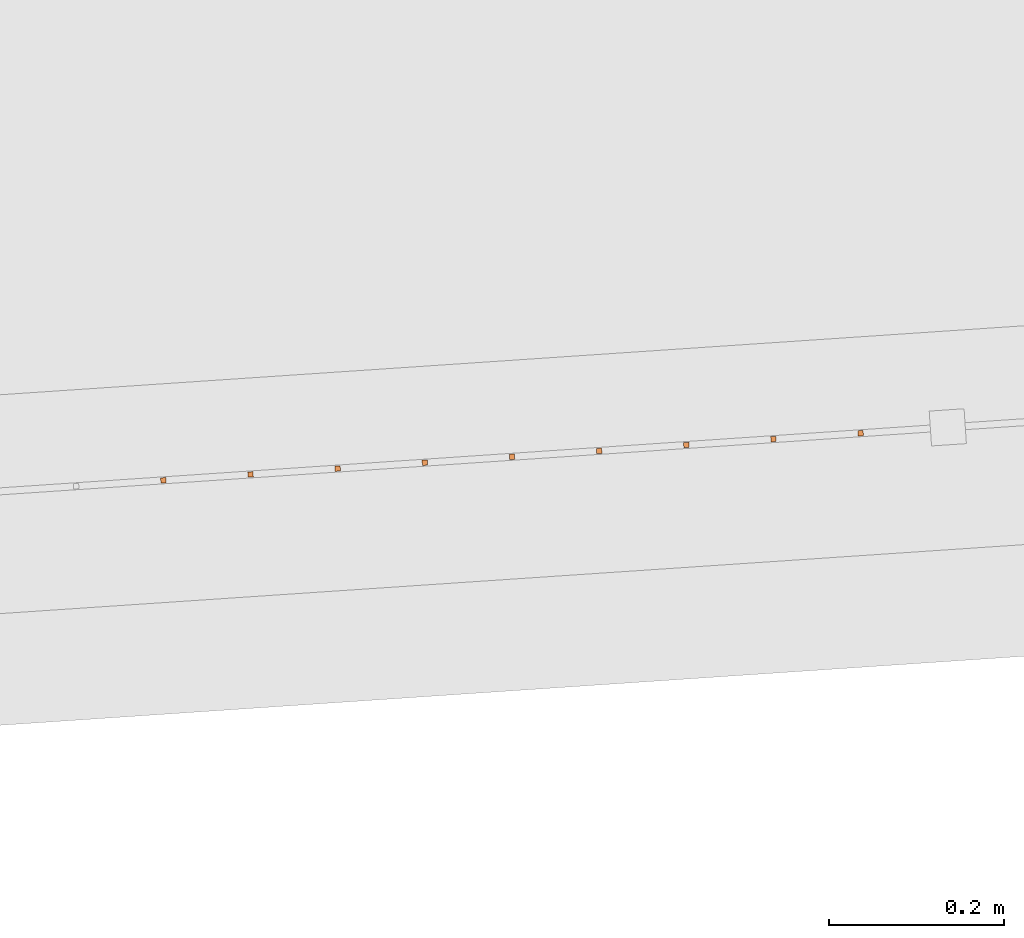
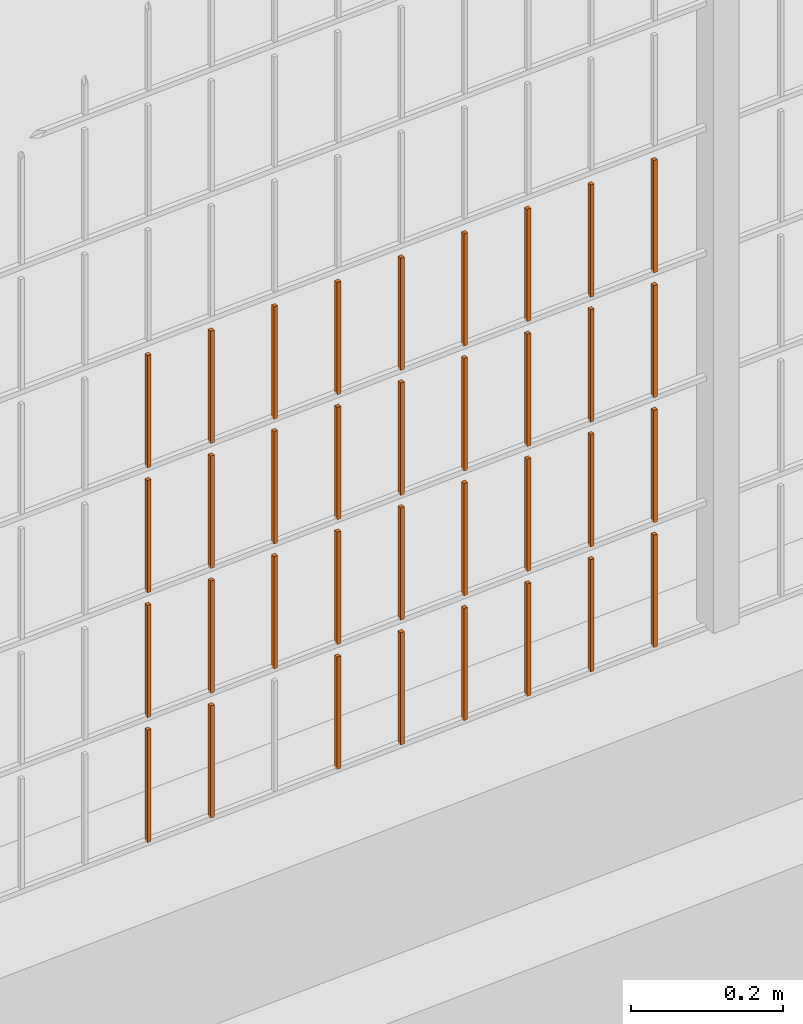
# One storey, part 207 of 1809: 35 proxies, 1 element without a shape of its own.
"""IFC2X3 building model written with IfcOpenShell, lengths in millimetres."""

from ifc_helpers import new_model, entity, si_unit, converted_unit, derived_unit, money_unit, direction, frame, origin_with_axes, place, context, subcontext, project, spatial, faceted_brep, source, transform, mapped, material, type_object, element, aggregate, save


model = new_model("IFC2X3")

# Units and contexts
model_context = context("Model", 3, precision=0.01, world=origin_with_axes(), true_north=direction((0.0, 1.0)))
body_context = subcontext(model_context, "Body", "Model", "MODEL_VIEW")
ifc_project = project(units=[si_unit("LENGTHUNIT", "METRE", prefix="MILLI"), si_unit("AREAUNIT", "SQUARE_METRE"), si_unit("VOLUMEUNIT", "CUBIC_METRE"), converted_unit("PLANEANGLEUNIT", "DEGREE", entity("IfcPlaneAngleMeasure", 0.0174532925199), si_unit("PLANEANGLEUNIT", "RADIAN"), dimensions=[0, 0, 0, 0, 0, 0, 0]), si_unit("SOLIDANGLEUNIT", "STERADIAN"), money_unit("EUR"), converted_unit("TIMEUNIT", "Year", entity("IfcTimeMeasure", 31556926.0), si_unit("TIMEUNIT", "SECOND"), dimensions=[0, 0, 1, 0, 0, 0, 0]), si_unit("MASSUNIT", "GRAM", prefix="KILO"), si_unit("THERMODYNAMICTEMPERATUREUNIT", "DEGREE_CELSIUS"), si_unit("LUMINOUSINTENSITYUNIT", "LUMEN"), si_unit("ENERGYUNIT", "JOULE", prefix="MEGA"), derived_unit("THERMALCONDUCTANCEUNIT", [(si_unit("POWERUNIT", "WATT"), 1), (si_unit("LENGTHUNIT", "METRE"), -1), (si_unit("THERMODYNAMICTEMPERATUREUNIT", "KELVIN"), -1)]), derived_unit("SPECIFICHEATCAPACITYUNIT", [(si_unit("ENERGYUNIT", "JOULE"), 1), (si_unit("MASSUNIT", "GRAM", prefix="KILO"), -1), (si_unit("THERMODYNAMICTEMPERATUREUNIT", "KELVIN"), -1)]), derived_unit("MASSDENSITYUNIT", [(si_unit("MASSUNIT", "GRAM", prefix="KILO"), 1), (si_unit("VOLUMEUNIT", "CUBIC_METRE"), -1)])], contexts=[model_context])

# Site, building, storey
site_placement = place(None, origin_with_axes())
site = spatial("IfcSite", under=ifc_project, at=site_placement, Name="Politse- ja Piirivalveameti ning Päästeameti ühishoone", CompositionType="ELEMENT")
building_placement = place(site_placement, origin_with_axes())
building = spatial("IfcBuilding", under=site, at=building_placement, Name="Politse- ja Piirivalveameti ning Päästeameti ühishoone", CompositionType="ELEMENT")
storey_placement = place(building_placement, origin_with_axes())
storey = spatial("IfcBuildingStorey", under=building, at=storey_placement, Name="Esimene korrus", CompositionType="ELEMENT", Elevation=0.0)

# Proxies
building_element_proxy_type_1 = type_object("IfcBuildingElementProxyType", Name="Railing Type", PredefinedType="NOTDEFINED")
proxy_1_placement = place(storey_placement, frame((89252.001212, -29183.4766571, 203.661247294), z_axis=(0.0, 0.0, 1.0), x_axis=(1.0, 0.0, 0.0)))
proxy_1 = element("IfcBuildingElementProxy", 1, at=proxy_1_placement, inside=storey, type_object=building_element_proxy_type_1, Name="PIIRDEAED")
ifc_material = material(Name="ET-03_Raud")
building_element_proxy_type_2 = type_object("IfcBuildingElementProxyType", Name="IfcBuildingElementProxy", PredefinedType="NOTDEFINED")
shared_shape_1 = source(origin_with_axes(), body_context, "Body", "Brep", [
    faceted_brep([(3.0, 3.0, -0.000752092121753), (-3.0, 3.0, -0.000752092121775), (-3.0, 3.0, 179.99926046), (3.0, 3.0, 179.99926046), (3.0, -3.0, 0.000752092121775), (-3.0, -3.0, 0.000752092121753), (-3.0, -3.0, 180.000764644), (3.0, -3.0, 180.000764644)], [[[0, 1, 2, 3]], [[0, 4, 5, 1]], [[1, 5, 6, 2]], [[3, 2, 6, 7]], [[4, 0, 3, 7]], [[5, 4, 7, 6]]]),
])
proxy_2_placement = place(proxy_1_placement, frame((-62783.6260468, -21538.5717642, 611.458830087), z_axis=(0.0, 0.0, 1.0), x_axis=(1.0, 0.0, 0.0)))
proxy_2 = element("IfcBuildingElementProxy", 2, at=proxy_2_placement, type_object=building_element_proxy_type_2, material=ifc_material, Name="BALUSTER - 001", context=body_context, shape_type="MappedRepresentation", body=[
    mapped(shared_shape_1, transform((0.0, 0.0, 0.0), x_axis=(-0.0673926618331, 0.997726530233, 0.0), y_axis=(-0.997726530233, -0.0673926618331, 0.0), z_axis=(0.0, 0.0, 1.0))),
])
shared_shape_2 = source(origin_with_axes(), body_context, "Body", "Brep", [
    faceted_brep([(3.0, 3.0, -0.000752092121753), (-3.0, 3.0, -0.000752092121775), (-3.0, 3.0, 179.99926046), (3.0, 3.0, 179.99926046), (3.0, -3.0, 0.000752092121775), (-3.0, -3.0, 0.000752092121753), (-3.0, -3.0, 180.000764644), (3.0, -3.0, 180.000764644)], [[[0, 1, 2, 3]], [[0, 4, 5, 1]], [[1, 5, 6, 2]], [[3, 2, 6, 7]], [[4, 0, 3, 7]], [[5, 4, 7, 6]]]),
])
proxy_3_placement = place(proxy_1_placement, frame((-62783.6260468, -21538.5717642, 411.458830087), z_axis=(0.0, 0.0, 1.0), x_axis=(1.0, 0.0, 0.0)))
proxy_3 = element("IfcBuildingElementProxy", 3, at=proxy_3_placement, type_object=building_element_proxy_type_2, material=ifc_material, Name="BALUSTER - 001", context=body_context, shape_type="MappedRepresentation", body=[
    mapped(shared_shape_2, transform((0.0, 0.0, 0.0), x_axis=(-0.0673926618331, 0.997726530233, 0.0), y_axis=(-0.997726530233, -0.0673926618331, 0.0), z_axis=(0.0, 0.0, 1.0))),
])
shared_shape_3 = source(origin_with_axes(), body_context, "Body", "Brep", [
    faceted_brep([(3.0, 3.0, -0.000752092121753), (-3.0, 3.0, -0.000752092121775), (-3.0, 3.0, 179.99926046), (3.0, 3.0, 179.99926046), (3.0, -3.0, 0.000752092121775), (-3.0, -3.0, 0.000752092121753), (-3.0, -3.0, 180.000764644), (3.0, -3.0, 180.000764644)], [[[0, 1, 2, 3]], [[0, 4, 5, 1]], [[1, 5, 6, 2]], [[3, 2, 6, 7]], [[4, 0, 3, 7]], [[5, 4, 7, 6]]]),
])
proxy_4_placement = place(proxy_1_placement, frame((-62783.6260468, -21538.5717642, 11.4588300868), z_axis=(0.0, 0.0, 1.0), x_axis=(1.0, 0.0, 0.0)))
proxy_4 = element("IfcBuildingElementProxy", 4, at=proxy_4_placement, type_object=building_element_proxy_type_2, material=ifc_material, Name="BALUSTER - 001", context=body_context, shape_type="MappedRepresentation", body=[
    mapped(shared_shape_3, transform((0.0, 0.0, 0.0), x_axis=(-0.0673926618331, 0.997726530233, 0.0), y_axis=(-0.997726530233, -0.0673926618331, 0.0), z_axis=(0.0, 0.0, 1.0))),
])
shared_shape_4 = source(origin_with_axes(), body_context, "Body", "Brep", [
    faceted_brep([(3.0, 3.0, -0.000752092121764), (-3.0, 3.0, -0.000752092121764), (-3.0, 3.0, 179.99926046), (3.0, 3.0, 179.99926046), (3.0, -3.0, 0.000752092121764), (-3.0, -3.0, 0.000752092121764), (-3.0, -3.0, 180.000764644), (3.0, -3.0, 180.000764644)], [[[0, 1, 2, 3]], [[0, 4, 5, 1]], [[1, 5, 6, 2]], [[3, 2, 6, 7]], [[4, 0, 3, 7]], [[5, 4, 7, 6]]]),
])
proxy_5_placement = place(proxy_1_placement, frame((-62484.3080878, -21518.3539657, 11.5340392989), z_axis=(0.0, 0.0, 1.0), x_axis=(1.0, 0.0, 0.0)))
proxy_5 = element("IfcBuildingElementProxy", 5, at=proxy_5_placement, type_object=building_element_proxy_type_2, material=ifc_material, Name="BALUSTER - 001", context=body_context, shape_type="MappedRepresentation", body=[
    mapped(shared_shape_4, transform((0.0, 0.0, 0.0), x_axis=(-0.0673926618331, 0.997726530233, 0.0), y_axis=(-0.997726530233, -0.0673926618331, 0.0), z_axis=(0.0, 0.0, 1.0))),
])
shared_shape_5 = source(origin_with_axes(), body_context, "Body", "Brep", [
    faceted_brep([(3.0, 3.0, -0.000752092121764), (-3.0, 3.0, -0.000752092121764), (-3.0, 3.0, 179.99926046), (3.0, 3.0, 179.99926046), (3.0, -3.0, 0.000752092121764), (-3.0, -3.0, 0.000752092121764), (-3.0, -3.0, 180.000764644), (3.0, -3.0, 180.000764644)], [[[0, 1, 2, 3]], [[0, 4, 5, 1]], [[1, 5, 6, 2]], [[3, 2, 6, 7]], [[4, 0, 3, 7]], [[5, 4, 7, 6]]]),
])
proxy_6_placement = place(proxy_1_placement, frame((-62584.0807408, -21525.0932318, 11.5089695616), z_axis=(0.0, 0.0, 1.0), x_axis=(1.0, 0.0, 0.0)))
proxy_6 = element("IfcBuildingElementProxy", 6, at=proxy_6_placement, type_object=building_element_proxy_type_2, material=ifc_material, Name="BALUSTER - 001", context=body_context, shape_type="MappedRepresentation", body=[
    mapped(shared_shape_5, transform((0.0, 0.0, 0.0), x_axis=(-0.0673926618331, 0.997726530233, 0.0), y_axis=(-0.997726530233, -0.0673926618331, 0.0), z_axis=(0.0, 0.0, 1.0))),
])
shared_shape_6 = source(origin_with_axes(), body_context, "Body", "Brep", [
    faceted_brep([(3.0, 3.0, -0.000752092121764), (-3.0, 3.0, -0.000752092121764), (-3.0, 3.0, 179.99926046), (3.0, 3.0, 179.99926046), (3.0, -3.0, 0.000752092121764), (-3.0, -3.0, 0.000752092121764), (-3.0, -3.0, 180.000764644), (3.0, -3.0, 180.000764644)], [[[0, 1, 2, 3]], [[0, 4, 5, 1]], [[1, 5, 6, 2]], [[3, 2, 6, 7]], [[4, 0, 3, 7]], [[5, 4, 7, 6]]]),
])
proxy_7_placement = place(proxy_1_placement, frame((-62584.0807408, -21525.0932318, 211.508969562), z_axis=(0.0, 0.0, 1.0), x_axis=(1.0, 0.0, 0.0)))
proxy_7 = element("IfcBuildingElementProxy", 7, at=proxy_7_placement, type_object=building_element_proxy_type_2, material=ifc_material, Name="BALUSTER - 001", context=body_context, shape_type="MappedRepresentation", body=[
    mapped(shared_shape_6, transform((0.0, 0.0, 0.0), x_axis=(-0.0673926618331, 0.997726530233, 0.0), y_axis=(-0.997726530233, -0.0673926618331, 0.0), z_axis=(0.0, 0.0, 1.0))),
])
proxy_8_placement = place(proxy_1_placement, frame((-62584.0807408, -21525.0932318, 411.508969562), z_axis=(0.0, 0.0, 1.0), x_axis=(1.0, 0.0, 0.0)))
proxy_8 = element("IfcBuildingElementProxy", 8, at=proxy_8_placement, type_object=building_element_proxy_type_2, material=ifc_material, Name="BALUSTER - 001", context=body_context, shape_type="MappedRepresentation", body=[
    mapped(shared_shape_6, transform((0.0, 0.0, 0.0), x_axis=(-0.0673926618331, 0.997726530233, 0.0), y_axis=(-0.997726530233, -0.0673926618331, 0.0), z_axis=(0.0, 0.0, 1.0))),
])
proxy_9_placement = place(proxy_1_placement, frame((-62584.0807408, -21525.0932318, 611.508969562), z_axis=(0.0, 0.0, 1.0), x_axis=(1.0, 0.0, 0.0)))
proxy_9 = element("IfcBuildingElementProxy", 9, at=proxy_9_placement, type_object=building_element_proxy_type_2, material=ifc_material, Name="BALUSTER - 001", context=body_context, shape_type="MappedRepresentation", body=[
    mapped(shared_shape_6, transform((0.0, 0.0, 0.0), x_axis=(-0.0673926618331, 0.997726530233, 0.0), y_axis=(-0.997726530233, -0.0673926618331, 0.0), z_axis=(0.0, 0.0, 1.0))),
])
shared_shape_7 = source(origin_with_axes(), body_context, "Body", "Brep", [
    faceted_brep([(3.0, 3.0, -0.000752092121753), (-3.0, 3.0, -0.000752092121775), (-3.0, 3.0, 179.99926046), (3.0, 3.0, 179.99926046), (3.0, -3.0, 0.000752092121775), (-3.0, -3.0, 0.000752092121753), (-3.0, -3.0, 180.000764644), (3.0, -3.0, 180.000764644)], [[[0, 1, 2, 3]], [[0, 4, 5, 1]], [[1, 5, 6, 2]], [[3, 2, 6, 7]], [[4, 0, 3, 7]], [[5, 4, 7, 6]]]),
])
proxy_10_placement = place(proxy_1_placement, frame((-63082.9440059, -21558.7895628, 211.383620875), z_axis=(0.0, 0.0, 1.0), x_axis=(1.0, 0.0, 0.0)))
proxy_10 = element("IfcBuildingElementProxy", 10, at=proxy_10_placement, type_object=building_element_proxy_type_2, material=ifc_material, Name="BALUSTER - 001", context=body_context, shape_type="MappedRepresentation", body=[
    mapped(shared_shape_7, transform((0.0, 0.0, 0.0), x_axis=(-0.0673926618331, 0.997726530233, 0.0), y_axis=(-0.997726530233, -0.0673926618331, 0.0), z_axis=(0.0, 0.0, 1.0))),
])
proxy_11_placement = place(proxy_1_placement, frame((-63082.9440059, -21558.7895628, 411.383620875), z_axis=(0.0, 0.0, 1.0), x_axis=(1.0, 0.0, 0.0)))
proxy_11 = element("IfcBuildingElementProxy", 11, at=proxy_11_placement, type_object=building_element_proxy_type_2, material=ifc_material, Name="BALUSTER - 001", context=body_context, shape_type="MappedRepresentation", body=[
    mapped(shared_shape_7, transform((0.0, 0.0, 0.0), x_axis=(-0.0673926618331, 0.997726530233, 0.0), y_axis=(-0.997726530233, -0.0673926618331, 0.0), z_axis=(0.0, 0.0, 1.0))),
])
shared_shape_8 = source(origin_with_axes(), body_context, "Body", "Brep", [
    faceted_brep([(3.0, 3.0, -0.000752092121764), (-3.0, 3.0, -0.000752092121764), (-3.0, 3.0, 179.99926046), (3.0, 3.0, 179.99926046), (3.0, -3.0, 0.000752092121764), (-3.0, -3.0, 0.000752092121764), (-3.0, -3.0, 180.000764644), (3.0, -3.0, 180.000764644)], [[[0, 1, 2, 3]], [[0, 4, 5, 1]], [[1, 5, 6, 2]], [[3, 2, 6, 7]], [[4, 0, 3, 7]], [[5, 4, 7, 6]]]),
])
proxy_12_placement = place(proxy_1_placement, frame((-62484.3080878, -21518.3539657, 411.534039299), z_axis=(0.0, 0.0, 1.0), x_axis=(1.0, 0.0, 0.0)))
proxy_12 = element("IfcBuildingElementProxy", 12, at=proxy_12_placement, type_object=building_element_proxy_type_2, material=ifc_material, Name="BALUSTER - 001", context=body_context, shape_type="MappedRepresentation", body=[
    mapped(shared_shape_8, transform((0.0, 0.0, 0.0), x_axis=(-0.0673926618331, 0.997726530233, 0.0), y_axis=(-0.997726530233, -0.0673926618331, 0.0), z_axis=(0.0, 0.0, 1.0))),
])
shared_shape_9 = source(origin_with_axes(), body_context, "Body", "Brep", [
    faceted_brep([(3.0, 3.0, -0.000752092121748), (-3.0, 3.0, -0.00075209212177), (-3.0, 3.0, 179.99926046), (3.0, 3.0, 179.99926046), (3.0, -3.0, 0.00075209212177), (-3.0, -3.0, 0.000752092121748), (-3.0, -3.0, 180.000764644), (3.0, -3.0, 180.000764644)], [[[0, 1, 2, 3]], [[0, 4, 5, 1]], [[1, 5, 6, 2]], [[3, 2, 6, 7]], [[4, 0, 3, 7]], [[5, 4, 7, 6]]]),
])
proxy_13_placement = place(proxy_1_placement, frame((-62683.8533938, -21531.832498, 211.483899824), z_axis=(0.0, 0.0, 1.0), x_axis=(1.0, 0.0, 0.0)))
proxy_13 = element("IfcBuildingElementProxy", 13, at=proxy_13_placement, type_object=building_element_proxy_type_2, material=ifc_material, Name="BALUSTER - 001", context=body_context, shape_type="MappedRepresentation", body=[
    mapped(shared_shape_9, transform((0.0, 0.0, 0.0), x_axis=(-0.0673926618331, 0.997726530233, 0.0), y_axis=(-0.997726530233, -0.0673926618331, 0.0), z_axis=(0.0, 0.0, 1.0))),
])
proxy_14_placement = place(proxy_1_placement, frame((-62683.8533938, -21531.832498, 611.483899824), z_axis=(0.0, 0.0, 1.0), x_axis=(1.0, 0.0, 0.0)))
proxy_14 = element("IfcBuildingElementProxy", 14, at=proxy_14_placement, type_object=building_element_proxy_type_2, material=ifc_material, Name="BALUSTER - 001", context=body_context, shape_type="MappedRepresentation", body=[
    mapped(shared_shape_9, transform((0.0, 0.0, 0.0), x_axis=(-0.0673926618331, 0.997726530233, 0.0), y_axis=(-0.997726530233, -0.0673926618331, 0.0), z_axis=(0.0, 0.0, 1.0))),
])
shared_shape_10 = source(origin_with_axes(), body_context, "Body", "Brep", [
    faceted_brep([(3.0, 3.0, -0.000752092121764), (-3.0, 3.0, -0.000752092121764), (-3.0, 3.0, 179.99926046), (3.0, 3.0, 179.99926046), (3.0, -3.0, 0.000752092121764), (-3.0, -3.0, 0.000752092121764), (-3.0, -3.0, 180.000764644), (3.0, -3.0, 180.000764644)], [[[0, 1, 2, 3]], [[0, 4, 5, 1]], [[1, 5, 6, 2]], [[3, 2, 6, 7]], [[4, 0, 3, 7]], [[5, 4, 7, 6]]]),
])
proxy_15_placement = place(proxy_1_placement, frame((-62983.1713529, -21552.0502966, 411.408690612), z_axis=(0.0, 0.0, 1.0), x_axis=(1.0, 0.0, 0.0)))
proxy_15 = element("IfcBuildingElementProxy", 15, at=proxy_15_placement, type_object=building_element_proxy_type_2, material=ifc_material, Name="BALUSTER - 001", context=body_context, shape_type="MappedRepresentation", body=[
    mapped(shared_shape_10, transform((0.0, 0.0, 0.0), x_axis=(-0.0673926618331, 0.997726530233, 0.0), y_axis=(-0.997726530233, -0.0673926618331, 0.0), z_axis=(0.0, 0.0, 1.0))),
])
shared_shape_11 = source(origin_with_axes(), body_context, "Body", "Brep", [
    faceted_brep([(3.0, 3.0, -0.000752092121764), (-3.0, 3.0, -0.000752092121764), (-3.0, 3.0, 179.99926046), (3.0, 3.0, 179.99926046), (3.0, -3.0, 0.000752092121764), (-3.0, -3.0, 0.000752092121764), (-3.0, -3.0, 180.000764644), (3.0, -3.0, 180.000764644)], [[[0, 1, 2, 3]], [[0, 4, 5, 1]], [[1, 5, 6, 2]], [[3, 2, 6, 7]], [[4, 0, 3, 7]], [[5, 4, 7, 6]]]),
])
proxy_16_placement = place(proxy_1_placement, frame((-62484.3080878, -21518.3539657, 211.534039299), z_axis=(0.0, 0.0, 1.0), x_axis=(1.0, 0.0, 0.0)))
proxy_16 = element("IfcBuildingElementProxy", 16, at=proxy_16_placement, type_object=building_element_proxy_type_2, material=ifc_material, Name="BALUSTER - 001", context=body_context, shape_type="MappedRepresentation", body=[
    mapped(shared_shape_11, transform((0.0, 0.0, 0.0), x_axis=(-0.0673926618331, 0.997726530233, 0.0), y_axis=(-0.997726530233, -0.0673926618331, 0.0), z_axis=(0.0, 0.0, 1.0))),
])
shared_shape_12 = source(origin_with_axes(), body_context, "Body", "Brep", [
    faceted_brep([(3.0, 3.0, -0.000752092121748), (-3.0, 3.0, -0.00075209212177), (-3.0, 3.0, 179.99926046), (3.0, 3.0, 179.99926046), (3.0, -3.0, 0.00075209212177), (-3.0, -3.0, 0.000752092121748), (-3.0, -3.0, 180.000764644), (3.0, -3.0, 180.000764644)], [[[0, 1, 2, 3]], [[0, 4, 5, 1]], [[1, 5, 6, 2]], [[3, 2, 6, 7]], [[4, 0, 3, 7]], [[5, 4, 7, 6]]]),
])
proxy_17_placement = place(proxy_1_placement, frame((-62683.8533938, -21531.832498, 411.483899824), z_axis=(0.0, 0.0, 1.0), x_axis=(1.0, 0.0, 0.0)))
proxy_17 = element("IfcBuildingElementProxy", 17, at=proxy_17_placement, type_object=building_element_proxy_type_2, material=ifc_material, Name="BALUSTER - 001", context=body_context, shape_type="MappedRepresentation", body=[
    mapped(shared_shape_12, transform((0.0, 0.0, 0.0), x_axis=(-0.0673926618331, 0.997726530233, 0.0), y_axis=(-0.997726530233, -0.0673926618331, 0.0), z_axis=(0.0, 0.0, 1.0))),
])
shared_shape_13 = source(origin_with_axes(), body_context, "Body", "Brep", [
    faceted_brep([(3.0, 3.0, -0.000752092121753), (-3.0, 3.0, -0.000752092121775), (-3.0, 3.0, 179.99926046), (3.0, 3.0, 179.99926046), (3.0, -3.0, 0.000752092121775), (-3.0, -3.0, 0.000752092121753), (-3.0, -3.0, 180.000764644), (3.0, -3.0, 180.000764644)], [[[0, 1, 2, 3]], [[0, 4, 5, 1]], [[1, 5, 6, 2]], [[3, 2, 6, 7]], [[4, 0, 3, 7]], [[5, 4, 7, 6]]]),
])
proxy_18_placement = place(proxy_1_placement, frame((-63082.9440059, -21558.7895628, 611.383620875), z_axis=(0.0, 0.0, 1.0), x_axis=(1.0, 0.0, 0.0)))
proxy_18 = element("IfcBuildingElementProxy", 18, at=proxy_18_placement, type_object=building_element_proxy_type_2, material=ifc_material, Name="BALUSTER - 001", context=body_context, shape_type="MappedRepresentation", body=[
    mapped(shared_shape_13, transform((0.0, 0.0, 0.0), x_axis=(-0.0673926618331, 0.997726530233, 0.0), y_axis=(-0.997726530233, -0.0673926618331, 0.0), z_axis=(0.0, 0.0, 1.0))),
])
shared_shape_14 = source(origin_with_axes(), body_context, "Body", "Brep", [
    faceted_brep([(3.0, 3.0, -0.000752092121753), (-3.0, 3.0, -0.000752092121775), (-3.0, 3.0, 179.99926046), (3.0, 3.0, 179.99926046), (3.0, -3.0, 0.000752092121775), (-3.0, -3.0, 0.000752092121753), (-3.0, -3.0, 180.000764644), (3.0, -3.0, 180.000764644)], [[[0, 1, 2, 3]], [[0, 4, 5, 1]], [[1, 5, 6, 2]], [[3, 2, 6, 7]], [[4, 0, 3, 7]], [[5, 4, 7, 6]]]),
])
proxy_19_placement = place(proxy_1_placement, frame((-62284.7627817, -21504.8754333, 411.584178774), z_axis=(0.0, 0.0, 1.0), x_axis=(1.0, 0.0, 0.0)))
proxy_19 = element("IfcBuildingElementProxy", 19, at=proxy_19_placement, type_object=building_element_proxy_type_2, material=ifc_material, Name="BALUSTER - 001", context=body_context, shape_type="MappedRepresentation", body=[
    mapped(shared_shape_14, transform((0.0, 0.0, 0.0), x_axis=(-0.0673926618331, 0.997726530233, 0.0), y_axis=(-0.997726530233, -0.0673926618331, 0.0), z_axis=(0.0, 0.0, 1.0))),
])
shared_shape_15 = source(origin_with_axes(), body_context, "Body", "Brep", [
    faceted_brep([(3.0, 3.0, -0.000752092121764), (-3.0, 3.0, -0.000752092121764), (-3.0, 3.0, 179.99926046), (3.0, 3.0, 179.99926046), (3.0, -3.0, 0.000752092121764), (-3.0, -3.0, 0.000752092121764), (-3.0, -3.0, 180.000764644), (3.0, -3.0, 180.000764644)], [[[0, 1, 2, 3]], [[0, 4, 5, 1]], [[1, 5, 6, 2]], [[3, 2, 6, 7]], [[4, 0, 3, 7]], [[5, 4, 7, 6]]]),
])
proxy_20_placement = place(proxy_1_placement, frame((-62983.1713529, -21552.0502966, 611.408690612), z_axis=(0.0, 0.0, 1.0), x_axis=(1.0, 0.0, 0.0)))
proxy_20 = element("IfcBuildingElementProxy", 20, at=proxy_20_placement, type_object=building_element_proxy_type_2, material=ifc_material, Name="BALUSTER - 001", context=body_context, shape_type="MappedRepresentation", body=[
    mapped(shared_shape_15, transform((0.0, 0.0, 0.0), x_axis=(-0.0673926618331, 0.997726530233, 0.0), y_axis=(-0.997726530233, -0.0673926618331, 0.0), z_axis=(0.0, 0.0, 1.0))),
])
shared_shape_16 = source(origin_with_axes(), body_context, "Body", "Brep", [
    faceted_brep([(3.0, 3.0, -0.000752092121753), (-3.0, 3.0, -0.000752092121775), (-3.0, 3.0, 179.99926046), (3.0, 3.0, 179.99926046), (3.0, -3.0, 0.000752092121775), (-3.0, -3.0, 0.000752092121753), (-3.0, -3.0, 180.000764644), (3.0, -3.0, 180.000764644)], [[[0, 1, 2, 3]], [[0, 4, 5, 1]], [[1, 5, 6, 2]], [[3, 2, 6, 7]], [[4, 0, 3, 7]], [[5, 4, 7, 6]]]),
])
proxy_21_placement = place(proxy_1_placement, frame((-62284.7627817, -21504.8754333, 11.5841787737), z_axis=(0.0, 0.0, 1.0), x_axis=(1.0, 0.0, 0.0)))
proxy_21 = element("IfcBuildingElementProxy", 21, at=proxy_21_placement, type_object=building_element_proxy_type_2, material=ifc_material, Name="BALUSTER - 001", context=body_context, shape_type="MappedRepresentation", body=[
    mapped(shared_shape_16, transform((0.0, 0.0, 0.0), x_axis=(-0.0673926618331, 0.997726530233, 0.0), y_axis=(-0.997726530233, -0.0673926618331, 0.0), z_axis=(0.0, 0.0, 1.0))),
])
shared_shape_17 = source(origin_with_axes(), body_context, "Body", "Brep", [
    faceted_brep([(3.0, 3.0, -0.000752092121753), (-3.0, 3.0, -0.000752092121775), (-3.0, 3.0, 179.99926046), (3.0, 3.0, 179.99926046), (3.0, -3.0, 0.000752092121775), (-3.0, -3.0, 0.000752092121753), (-3.0, -3.0, 180.000764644), (3.0, -3.0, 180.000764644)], [[[0, 1, 2, 3]], [[0, 4, 5, 1]], [[1, 5, 6, 2]], [[3, 2, 6, 7]], [[4, 0, 3, 7]], [[5, 4, 7, 6]]]),
])
proxy_22_placement = place(proxy_1_placement, frame((-62384.5354348, -21511.6146995, 11.5591090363), z_axis=(0.0, 0.0, 1.0), x_axis=(1.0, 0.0, 0.0)))
proxy_22 = element("IfcBuildingElementProxy", 22, at=proxy_22_placement, type_object=building_element_proxy_type_2, material=ifc_material, Name="BALUSTER - 001", context=body_context, shape_type="MappedRepresentation", body=[
    mapped(shared_shape_17, transform((0.0, 0.0, 0.0), x_axis=(-0.0673926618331, 0.997726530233, 0.0), y_axis=(-0.997726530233, -0.0673926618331, 0.0), z_axis=(0.0, 0.0, 1.0))),
])
proxy_23_placement = place(proxy_1_placement, frame((-62384.5354348, -21511.6146995, 211.559109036), z_axis=(0.0, 0.0, 1.0), x_axis=(1.0, 0.0, 0.0)))
proxy_23 = element("IfcBuildingElementProxy", 23, at=proxy_23_placement, type_object=building_element_proxy_type_2, material=ifc_material, Name="BALUSTER - 001", context=body_context, shape_type="MappedRepresentation", body=[
    mapped(shared_shape_17, transform((0.0, 0.0, 0.0), x_axis=(-0.0673926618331, 0.997726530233, 0.0), y_axis=(-0.997726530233, -0.0673926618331, 0.0), z_axis=(0.0, 0.0, 1.0))),
])
shared_shape_18 = source(origin_with_axes(), body_context, "Body", "Brep", [
    faceted_brep([(3.0, 3.0, -0.000752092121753), (-3.0, 3.0, -0.000752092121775), (-3.0, 3.0, 179.99926046), (3.0, 3.0, 179.99926046), (3.0, -3.0, 0.000752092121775), (-3.0, -3.0, 0.000752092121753), (-3.0, -3.0, 180.000764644), (3.0, -3.0, 180.000764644)], [[[0, 1, 2, 3]], [[0, 4, 5, 1]], [[1, 5, 6, 2]], [[3, 2, 6, 7]], [[4, 0, 3, 7]], [[5, 4, 7, 6]]]),
])
proxy_24_placement = place(proxy_1_placement, frame((-63082.9440059, -21558.7895628, 11.3836208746), z_axis=(0.0, 0.0, 1.0), x_axis=(1.0, 0.0, 0.0)))
proxy_24 = element("IfcBuildingElementProxy", 24, at=proxy_24_placement, type_object=building_element_proxy_type_2, material=ifc_material, Name="BALUSTER - 001", context=body_context, shape_type="MappedRepresentation", body=[
    mapped(shared_shape_18, transform((0.0, 0.0, 0.0), x_axis=(-0.0673926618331, 0.997726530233, 0.0), y_axis=(-0.997726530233, -0.0673926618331, 0.0), z_axis=(0.0, 0.0, 1.0))),
])
shared_shape_19 = source(origin_with_axes(), body_context, "Body", "Brep", [
    faceted_brep([(3.0, 3.0, -0.000752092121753), (-3.0, 3.0, -0.000752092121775), (-3.0, 3.0, 179.99926046), (3.0, 3.0, 179.99926046), (3.0, -3.0, 0.000752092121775), (-3.0, -3.0, 0.000752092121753), (-3.0, -3.0, 180.000764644), (3.0, -3.0, 180.000764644)], [[[0, 1, 2, 3]], [[0, 4, 5, 1]], [[1, 5, 6, 2]], [[3, 2, 6, 7]], [[4, 0, 3, 7]], [[5, 4, 7, 6]]]),
])
proxy_25_placement = place(proxy_1_placement, frame((-62883.3986999, -21545.3110304, 411.433760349), z_axis=(0.0, 0.0, 1.0), x_axis=(1.0, 0.0, 0.0)))
proxy_25 = element("IfcBuildingElementProxy", 25, at=proxy_25_placement, type_object=building_element_proxy_type_2, material=ifc_material, Name="BALUSTER - 001", context=body_context, shape_type="MappedRepresentation", body=[
    mapped(shared_shape_19, transform((0.0, 0.0, 0.0), x_axis=(-0.0673926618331, 0.997726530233, 0.0), y_axis=(-0.997726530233, -0.0673926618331, 0.0), z_axis=(0.0, 0.0, 1.0))),
])
proxy_26_placement = place(proxy_1_placement, frame((-62284.7627817, -21504.8754333, 611.584178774), z_axis=(0.0, 0.0, 1.0), x_axis=(1.0, 0.0, 0.0)))
proxy_26 = element("IfcBuildingElementProxy", 26, at=proxy_26_placement, type_object=building_element_proxy_type_2, material=ifc_material, Name="BALUSTER - 001", context=body_context, shape_type="MappedRepresentation", body=[
    mapped(shared_shape_19, transform((0.0, 0.0, 0.0), x_axis=(-0.0673926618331, 0.997726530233, 0.0), y_axis=(-0.997726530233, -0.0673926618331, 0.0), z_axis=(0.0, 0.0, 1.0))),
])
proxy_27_placement = place(proxy_1_placement, frame((-62883.3986999, -21545.3110304, 611.433760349), z_axis=(0.0, 0.0, 1.0), x_axis=(1.0, 0.0, 0.0)))
proxy_27 = element("IfcBuildingElementProxy", 27, at=proxy_27_placement, type_object=building_element_proxy_type_2, material=ifc_material, Name="BALUSTER - 001", context=body_context, shape_type="MappedRepresentation", body=[
    mapped(shared_shape_19, transform((0.0, 0.0, 0.0), x_axis=(-0.0673926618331, 0.997726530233, 0.0), y_axis=(-0.997726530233, -0.0673926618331, 0.0), z_axis=(0.0, 0.0, 1.0))),
])
shared_shape_20 = source(origin_with_axes(), body_context, "Body", "Brep", [
    faceted_brep([(3.0, 3.0, -0.000752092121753), (-3.0, 3.0, -0.000752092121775), (-3.0, 3.0, 179.99926046), (3.0, 3.0, 179.99926046), (3.0, -3.0, 0.000752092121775), (-3.0, -3.0, 0.000752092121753), (-3.0, -3.0, 180.000764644), (3.0, -3.0, 180.000764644)], [[[0, 1, 2, 3]], [[0, 4, 5, 1]], [[1, 5, 6, 2]], [[3, 2, 6, 7]], [[4, 0, 3, 7]], [[5, 4, 7, 6]]]),
])
proxy_28_placement = place(proxy_1_placement, frame((-62384.5354348, -21511.6146995, 411.559109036), z_axis=(0.0, 0.0, 1.0), x_axis=(1.0, 0.0, 0.0)))
proxy_28 = element("IfcBuildingElementProxy", 28, at=proxy_28_placement, type_object=building_element_proxy_type_2, material=ifc_material, Name="BALUSTER - 001", context=body_context, shape_type="MappedRepresentation", body=[
    mapped(shared_shape_20, transform((0.0, 0.0, 0.0), x_axis=(-0.0673926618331, 0.997726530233, 0.0), y_axis=(-0.997726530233, -0.0673926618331, 0.0), z_axis=(0.0, 0.0, 1.0))),
])
shared_shape_21 = source(origin_with_axes(), body_context, "Body", "Brep", [
    faceted_brep([(3.0, 3.0, -0.000752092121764), (-3.0, 3.0, -0.000752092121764), (-3.0, 3.0, 179.99926046), (3.0, 3.0, 179.99926046), (3.0, -3.0, 0.000752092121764), (-3.0, -3.0, 0.000752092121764), (-3.0, -3.0, 180.000764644), (3.0, -3.0, 180.000764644)], [[[0, 1, 2, 3]], [[0, 4, 5, 1]], [[1, 5, 6, 2]], [[3, 2, 6, 7]], [[4, 0, 3, 7]], [[5, 4, 7, 6]]]),
])
proxy_29_placement = place(proxy_1_placement, frame((-62484.3080878, -21518.3539657, 611.534039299), z_axis=(0.0, 0.0, 1.0), x_axis=(1.0, 0.0, 0.0)))
proxy_29 = element("IfcBuildingElementProxy", 29, at=proxy_29_placement, type_object=building_element_proxy_type_2, material=ifc_material, Name="BALUSTER - 001", context=body_context, shape_type="MappedRepresentation", body=[
    mapped(shared_shape_21, transform((0.0, 0.0, 0.0), x_axis=(-0.0673926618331, 0.997726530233, 0.0), y_axis=(-0.997726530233, -0.0673926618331, 0.0), z_axis=(0.0, 0.0, 1.0))),
])
shared_shape_22 = source(origin_with_axes(), body_context, "Body", "Brep", [
    faceted_brep([(3.0, 3.0, -0.000752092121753), (-3.0, 3.0, -0.000752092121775), (-3.0, 3.0, 179.99926046), (3.0, 3.0, 179.99926046), (3.0, -3.0, 0.000752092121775), (-3.0, -3.0, 0.000752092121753), (-3.0, -3.0, 180.000764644), (3.0, -3.0, 180.000764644)], [[[0, 1, 2, 3]], [[0, 4, 5, 1]], [[1, 5, 6, 2]], [[3, 2, 6, 7]], [[4, 0, 3, 7]], [[5, 4, 7, 6]]]),
])
proxy_30_placement = place(proxy_1_placement, frame((-62384.5354348, -21511.6146995, 611.559109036), z_axis=(0.0, 0.0, 1.0), x_axis=(1.0, 0.0, 0.0)))
proxy_30 = element("IfcBuildingElementProxy", 30, at=proxy_30_placement, type_object=building_element_proxy_type_2, material=ifc_material, Name="BALUSTER - 001", context=body_context, shape_type="MappedRepresentation", body=[
    mapped(shared_shape_22, transform((0.0, 0.0, 0.0), x_axis=(-0.0673926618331, 0.997726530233, 0.0), y_axis=(-0.997726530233, -0.0673926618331, 0.0), z_axis=(0.0, 0.0, 1.0))),
])
shared_shape_23 = source(origin_with_axes(), body_context, "Body", "Brep", [
    faceted_brep([(3.0, 3.0, -0.000752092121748), (-3.0, 3.0, -0.00075209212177), (-3.0, 3.0, 179.99926046), (3.0, 3.0, 179.99926046), (3.0, -3.0, 0.00075209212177), (-3.0, -3.0, 0.000752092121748), (-3.0, -3.0, 180.000764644), (3.0, -3.0, 180.000764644)], [[[0, 1, 2, 3]], [[0, 4, 5, 1]], [[1, 5, 6, 2]], [[3, 2, 6, 7]], [[4, 0, 3, 7]], [[5, 4, 7, 6]]]),
])
proxy_31_placement = place(proxy_1_placement, frame((-62683.8533938, -21531.832498, 11.4838998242), z_axis=(0.0, 0.0, 1.0), x_axis=(1.0, 0.0, 0.0)))
proxy_31 = element("IfcBuildingElementProxy", 31, at=proxy_31_placement, type_object=building_element_proxy_type_2, material=ifc_material, Name="BALUSTER - 001", context=body_context, shape_type="MappedRepresentation", body=[
    mapped(shared_shape_23, transform((0.0, 0.0, 0.0), x_axis=(-0.0673926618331, 0.997726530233, 0.0), y_axis=(-0.997726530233, -0.0673926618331, 0.0), z_axis=(0.0, 0.0, 1.0))),
])
shared_shape_24 = source(origin_with_axes(), body_context, "Body", "Brep", [
    faceted_brep([(3.0, 3.0, -0.000752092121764), (-3.0, 3.0, -0.000752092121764), (-3.0, 3.0, 179.99926046), (3.0, 3.0, 179.99926046), (3.0, -3.0, 0.000752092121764), (-3.0, -3.0, 0.000752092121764), (-3.0, -3.0, 180.000764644), (3.0, -3.0, 180.000764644)], [[[0, 1, 2, 3]], [[0, 4, 5, 1]], [[1, 5, 6, 2]], [[3, 2, 6, 7]], [[4, 0, 3, 7]], [[5, 4, 7, 6]]]),
])
proxy_32_placement = place(proxy_1_placement, frame((-62983.1713529, -21552.0502966, 11.408690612), z_axis=(0.0, 0.0, 1.0), x_axis=(1.0, 0.0, 0.0)))
proxy_32 = element("IfcBuildingElementProxy", 32, at=proxy_32_placement, type_object=building_element_proxy_type_2, material=ifc_material, Name="BALUSTER - 001", context=body_context, shape_type="MappedRepresentation", body=[
    mapped(shared_shape_24, transform((0.0, 0.0, 0.0), x_axis=(-0.0673926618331, 0.997726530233, 0.0), y_axis=(-0.997726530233, -0.0673926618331, 0.0), z_axis=(0.0, 0.0, 1.0))),
])
proxy_33_placement = place(proxy_1_placement, frame((-62983.1713529, -21552.0502966, 211.408690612), z_axis=(0.0, 0.0, 1.0), x_axis=(1.0, 0.0, 0.0)))
proxy_33 = element("IfcBuildingElementProxy", 33, at=proxy_33_placement, type_object=building_element_proxy_type_2, material=ifc_material, Name="BALUSTER - 001", context=body_context, shape_type="MappedRepresentation", body=[
    mapped(shared_shape_24, transform((0.0, 0.0, 0.0), x_axis=(-0.0673926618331, 0.997726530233, 0.0), y_axis=(-0.997726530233, -0.0673926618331, 0.0), z_axis=(0.0, 0.0, 1.0))),
])
shared_shape_25 = source(origin_with_axes(), body_context, "Body", "Brep", [
    faceted_brep([(3.0, 3.0, -0.000752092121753), (-3.0, 3.0, -0.000752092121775), (-3.0, 3.0, 179.99926046), (3.0, 3.0, 179.99926046), (3.0, -3.0, 0.000752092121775), (-3.0, -3.0, 0.000752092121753), (-3.0, -3.0, 180.000764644), (3.0, -3.0, 180.000764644)], [[[0, 1, 2, 3]], [[0, 4, 5, 1]], [[1, 5, 6, 2]], [[3, 2, 6, 7]], [[4, 0, 3, 7]], [[5, 4, 7, 6]]]),
])
proxy_34_placement = place(proxy_1_placement, frame((-62284.7627817, -21504.8754333, 211.584178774), z_axis=(0.0, 0.0, 1.0), x_axis=(1.0, 0.0, 0.0)))
proxy_34 = element("IfcBuildingElementProxy", 34, at=proxy_34_placement, type_object=building_element_proxy_type_2, material=ifc_material, Name="BALUSTER - 001", context=body_context, shape_type="MappedRepresentation", body=[
    mapped(shared_shape_25, transform((0.0, 0.0, 0.0), x_axis=(-0.0673926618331, 0.997726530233, 0.0), y_axis=(-0.997726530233, -0.0673926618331, 0.0), z_axis=(0.0, 0.0, 1.0))),
])
proxy_35_placement = place(proxy_1_placement, frame((-62883.3986999, -21545.3110304, 211.433760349), z_axis=(0.0, 0.0, 1.0), x_axis=(1.0, 0.0, 0.0)))
proxy_35 = element("IfcBuildingElementProxy", 35, at=proxy_35_placement, type_object=building_element_proxy_type_2, material=ifc_material, Name="BALUSTER - 001", context=body_context, shape_type="MappedRepresentation", body=[
    mapped(shared_shape_25, transform((0.0, 0.0, 0.0), x_axis=(-0.0673926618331, 0.997726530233, 0.0), y_axis=(-0.997726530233, -0.0673926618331, 0.0), z_axis=(0.0, 0.0, 1.0))),
])
shared_shape_26 = source(origin_with_axes(), body_context, "Body", "Brep", [
    faceted_brep([(3.0, 3.0, -0.000752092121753), (-3.0, 3.0, -0.000752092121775), (-3.0, 3.0, 179.99926046), (3.0, 3.0, 179.99926046), (3.0, -3.0, 0.000752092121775), (-3.0, -3.0, 0.000752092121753), (-3.0, -3.0, 180.000764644), (3.0, -3.0, 180.000764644)], [[[0, 1, 2, 3]], [[0, 4, 5, 1]], [[1, 5, 6, 2]], [[3, 2, 6, 7]], [[4, 0, 3, 7]], [[5, 4, 7, 6]]]),
])
proxy_36_placement = place(proxy_1_placement, frame((-62783.6260468, -21538.5717642, 211.458830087), z_axis=(0.0, 0.0, 1.0), x_axis=(1.0, 0.0, 0.0)))
proxy_36 = element("IfcBuildingElementProxy", 36, at=proxy_36_placement, type_object=building_element_proxy_type_2, material=ifc_material, Name="BALUSTER - 001", context=body_context, shape_type="MappedRepresentation", body=[
    mapped(shared_shape_26, transform((0.0, 0.0, 0.0), x_axis=(-0.0673926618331, 0.997726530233, 0.0), y_axis=(-0.997726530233, -0.0673926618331, 0.0), z_axis=(0.0, 0.0, 1.0))),
])
aggregate(proxy_1, [proxy_21, proxy_22, proxy_5, proxy_6, proxy_31, proxy_4, proxy_32, proxy_24, proxy_34, proxy_23, proxy_16, proxy_7, proxy_13, proxy_36, proxy_35, proxy_33, proxy_10, proxy_19, proxy_28, proxy_12, proxy_8, proxy_17, proxy_3, proxy_25, proxy_15, proxy_11, proxy_26, proxy_30, proxy_29, proxy_9, proxy_14, proxy_2, proxy_27, proxy_20, proxy_18])

save(model, "model.ifc")
